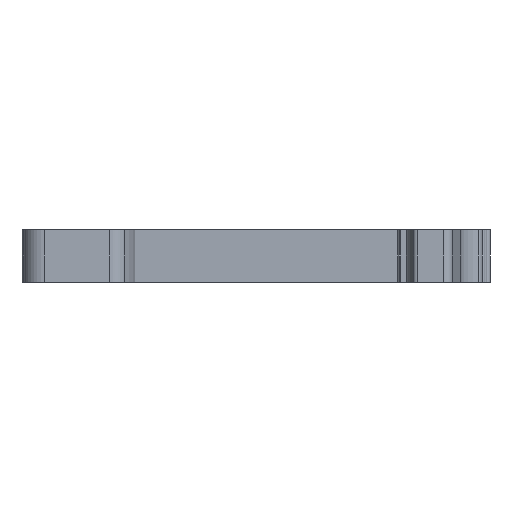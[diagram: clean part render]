
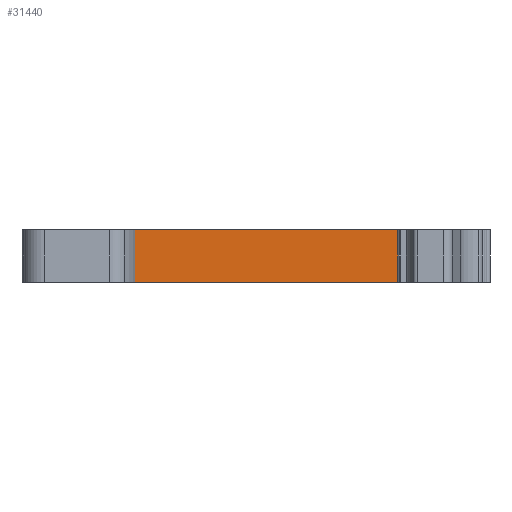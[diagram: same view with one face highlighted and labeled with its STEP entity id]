
A CAD part, front view. The second image highlights one B-rep face of the part: STEP entity #31440.
In plain terms, the highlighted planar face has unit normal (0, -1, 0).
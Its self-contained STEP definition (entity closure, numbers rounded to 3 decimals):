
#5450=CARTESIAN_POINT('',(15.1,0.,0.));
#5460=VERTEX_POINT('',#5450);
#5490=CARTESIAN_POINT('',(1.738,0.,0.));
#5500=DIRECTION('',(1.,0.,0.));
#5510=VECTOR('',#5500,1.);
#5520=LINE('',#5490,#5510);
#5530=CARTESIAN_POINT('',(-16.3,0.,0.));
#5540=VERTEX_POINT('',#5530);
#5550=EDGE_CURVE('',#5540,#5460,#5520,.T.);
#16850=CARTESIAN_POINT('',(-16.3,0.,-6.2)
);
#16860=VERTEX_POINT('',#16850);
#16890=CARTESIAN_POINT('',(0.,0.,-6.2));
#16900=DIRECTION('',(1.,0.,-0.));
#16910=VECTOR('',#16900,1.);
#16920=LINE('',#16890,#16910);
#16930=CARTESIAN_POINT('',(15.1,0.,-6.2));
#16940=VERTEX_POINT('',#16930);
#16950=EDGE_CURVE('',#16860,#16940,#16920,.T.);
#31170=CARTESIAN_POINT('',(-16.3,0.,0.));
#31180=DIRECTION('',(0.,0.,-1.));
#31190=VECTOR('',#31180,1.);
#31200=LINE('',#31170,#31190);
#31210=EDGE_CURVE('',#5540,#16860,#31200,.T.);
#31280=CARTESIAN_POINT('',(15.1,0.,0.));
#31290=DIRECTION('',(-0.,1.,0.));
#31300=DIRECTION('',(1.,0.,0.));
#31310=AXIS2_PLACEMENT_3D('',#31280,#31290,#31300);
#31320=PLANE('',#31310);
#31330=ORIENTED_EDGE('',*,*,#5550,.F.);
#31340=CARTESIAN_POINT('',(15.1,0.,0.));
#31350=DIRECTION('',(-0.,0.,-1.));
#31360=VECTOR('',#31350,1.);
#31370=LINE('',#31340,#31360);
#31380=EDGE_CURVE('',#5460,#16940,#31370,.T.);
#31390=ORIENTED_EDGE('',*,*,#31380,.F.);
#31400=ORIENTED_EDGE('',*,*,#16950,.T.);
#31410=ORIENTED_EDGE('',*,*,#31210,.T.);
#31420=EDGE_LOOP('',(#31410,#31400,#31390,#31330));
#31430=FACE_OUTER_BOUND('',#31420,.T.);
#31440=ADVANCED_FACE('',(#31430),#31320,.F.);
